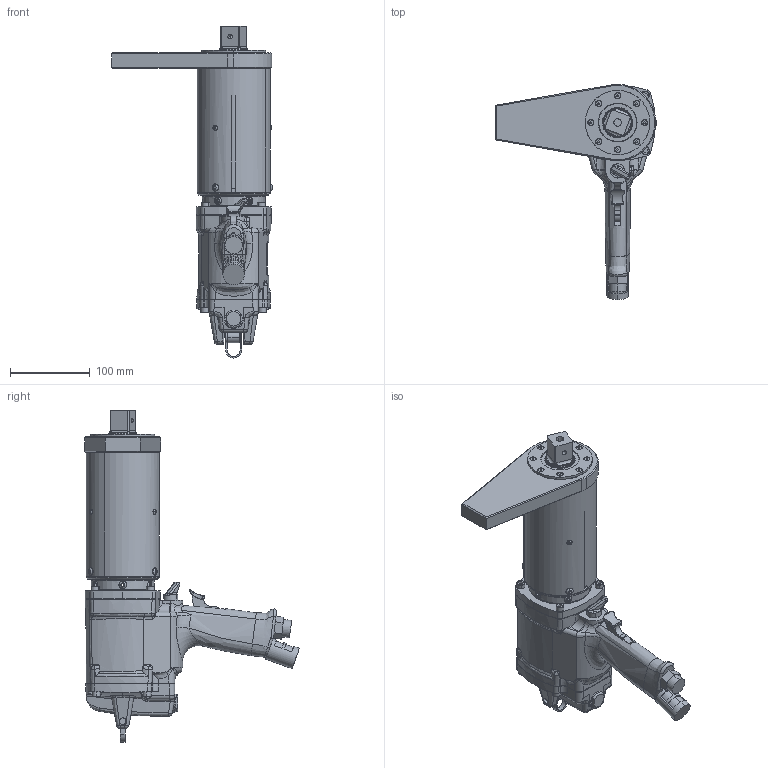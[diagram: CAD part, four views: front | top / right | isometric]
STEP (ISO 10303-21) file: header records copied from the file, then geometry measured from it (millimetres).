
FILE_DESCRIPTION (( 'STEP AP214' ), '1' );
FILE_NAME ('AAP1B885100A1.STEP', '2014-12-06T00:06:17', ( 'AIMCO' ), ( '' ), 'SwSTEP 2.0', 'SolidWorks 2014', '' );
FILE_SCHEMA (( 'AUTOMOTIVE_DESIGN' ));
Length unit declared in the file: inch
Products named in the file (1): AAP1B885100A1
Bounding box: 200.56 x 268.76 x 415.37 mm (x, y, z)
Surface area: 208298.6 mm2 (no closed solid volume)
Topology: 0 solids, 49 shells, 945 faces, 3198 edges, 2280 vertices
Faces by surface type: cylinder 321, plane 297, bspline 220, torus 62, cone 45
Entity records: 157005 total; most frequent: CARTESIAN_POINT 119641, ORIENTED_EDGE 5246, DIRECTION 4440, EDGE_CURVE 3188, VERTEX_POINT 2280, AXIS2_PLACEMENT_3D 1640, VECTOR 1160, LINE 1160
